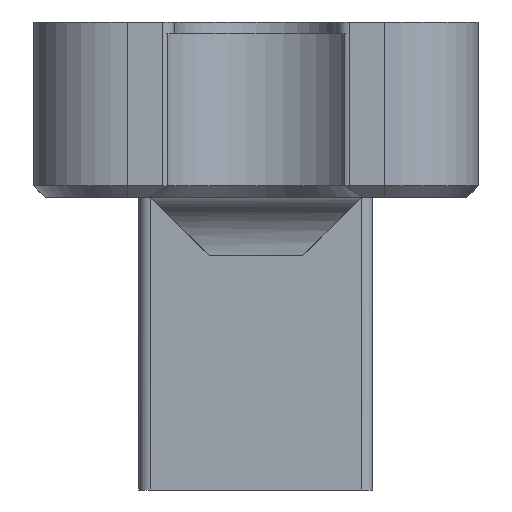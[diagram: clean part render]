
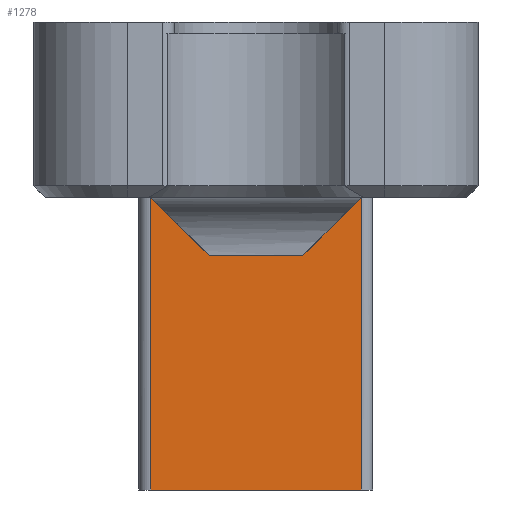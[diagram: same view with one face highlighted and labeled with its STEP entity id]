
A CAD part, front view. The second image highlights one B-rep face of the part: STEP entity #1278.
In plain terms, the highlighted planar face has unit normal (0, -1, 0).
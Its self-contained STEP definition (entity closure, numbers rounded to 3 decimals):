
#44=PLANE('',#1379);
#84=FACE_OUTER_BOUND('',#157,.T.);
#157=EDGE_LOOP('',(#873,#874,#875,#876,#877,#878));
#243=LINE('',#1914,#361);
#251=LINE('',#1938,#369);
#252=LINE('',#1940,#370);
#253=LINE('',#1942,#371);
#254=LINE('',#1944,#372);
#255=LINE('',#1945,#373);
#361=VECTOR('',#1516,10.);
#369=VECTOR('',#1536,10.);
#370=VECTOR('',#1539,10.);
#371=VECTOR('',#1540,10.);
#372=VECTOR('',#1541,10.);
#373=VECTOR('',#1542,10.);
#536=VERTEX_POINT('',#1911);
#537=VERTEX_POINT('',#1913);
#544=VERTEX_POINT('',#1931);
#547=VERTEX_POINT('',#1936);
#548=VERTEX_POINT('',#1941);
#549=VERTEX_POINT('',#1943);
#663=EDGE_CURVE('',#536,#537,#243,.T.);
#675=EDGE_CURVE('',#547,#544,#251,.T.);
#676=EDGE_CURVE('',#544,#536,#252,.T.);
#677=EDGE_CURVE('',#548,#547,#253,.T.);
#678=EDGE_CURVE('',#549,#548,#254,.T.);
#679=EDGE_CURVE('',#537,#549,#255,.T.);
#873=ORIENTED_EDGE('',*,*,#663,.F.);
#874=ORIENTED_EDGE('',*,*,#676,.F.);
#875=ORIENTED_EDGE('',*,*,#675,.F.);
#876=ORIENTED_EDGE('',*,*,#677,.F.);
#877=ORIENTED_EDGE('',*,*,#678,.F.);
#878=ORIENTED_EDGE('',*,*,#679,.F.);
#1278=ADVANCED_FACE('',(#84),#44,.T.);
#1379=AXIS2_PLACEMENT_3D('',#1939,#1537,#1538);
#1516=DIRECTION('',(0.,0.,1.));
#1536=DIRECTION('',(0.,0.,-1.));
#1537=DIRECTION('center_axis',(0.,-1.,0.));
#1538=DIRECTION('ref_axis',(1.,0.,0.));
#1539=DIRECTION('',(-1.,0.,0.));
#1540=DIRECTION('',(0.707,0.,0.707));
#1541=DIRECTION('',(1.,0.,0.));
#1542=DIRECTION('',(0.707,0.,-0.707));
#1911=CARTESIAN_POINT('',(-9.,-97.,0.));
#1913=CARTESIAN_POINT('',(-9.,-97.,25.));
#1914=CARTESIAN_POINT('',(-9.,-97.,20.));
#1931=CARTESIAN_POINT('',(9.,-97.,0.));
#1936=CARTESIAN_POINT('',(9.,-97.,25.));
#1938=CARTESIAN_POINT('',(9.,-97.,12.5));
#1939=CARTESIAN_POINT('Origin',(-9.,-97.,0.));
#1940=CARTESIAN_POINT('',(10.,-97.,0.));
#1941=CARTESIAN_POINT('',(4.,-97.,20.));
#1942=CARTESIAN_POINT('',(8.875,-97.,24.875));
#1943=CARTESIAN_POINT('',(-4.,-97.,20.));
#1944=CARTESIAN_POINT('',(-9.5,-97.,20.));
#1945=CARTESIAN_POINT('',(-8.875,-97.,24.875));
